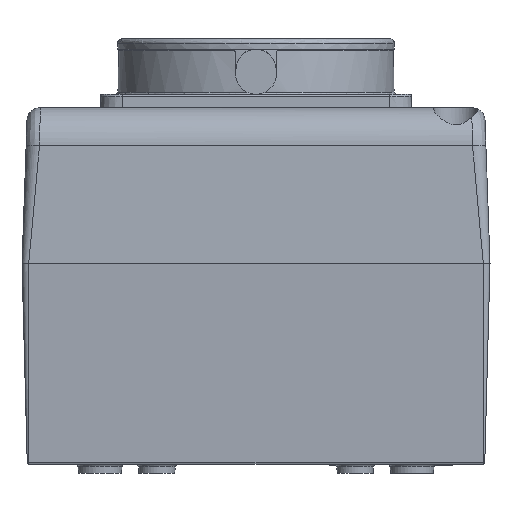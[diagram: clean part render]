
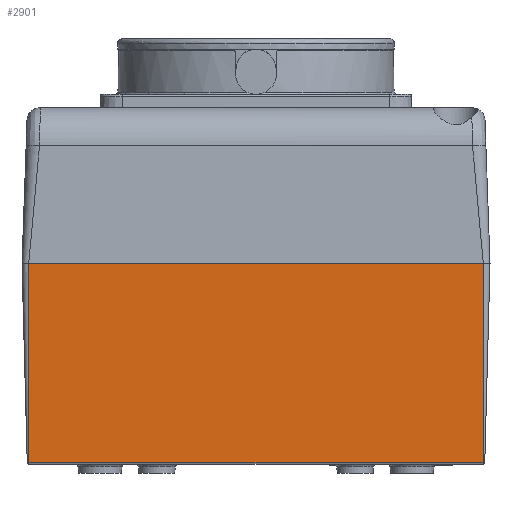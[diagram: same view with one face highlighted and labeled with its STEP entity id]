
A CAD part, front view. The second image highlights one B-rep face of the part: STEP entity #2901.
In plain terms, the highlighted planar face has unit normal (0, -1, -0.026).
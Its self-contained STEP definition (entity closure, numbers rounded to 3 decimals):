
#2663=PLANE('',#8642);
#2901=ADVANCED_FACE('',(#3283),#2663,.T.);
#3283=FACE_OUTER_BOUND('',#3580,.T.);
#3580=EDGE_LOOP('',(#4909,#4910,#4911,#4912));
#4909=ORIENTED_EDGE('',*,*,#6901,.T.);
#4910=ORIENTED_EDGE('',*,*,#6902,.T.);
#4911=ORIENTED_EDGE('',*,*,#6903,.F.);
#4912=ORIENTED_EDGE('',*,*,#6904,.T.);
#5926=VERTEX_POINT('',#13768);
#5927=VERTEX_POINT('',#13769);
#5928=VERTEX_POINT('',#13771);
#5929=VERTEX_POINT('',#13773);
#6901=EDGE_CURVE('',#5926,#5927,#7599,.T.);
#6902=EDGE_CURVE('',#5927,#5928,#7600,.T.);
#6903=EDGE_CURVE('',#5929,#5928,#7601,.T.);
#6904=EDGE_CURVE('',#5929,#5926,#7602,.T.);
#7599=LINE('',#13767,#8105);
#7600=LINE('',#13770,#8106);
#7601=LINE('',#13772,#8107);
#7602=LINE('',#13774,#8108);
#8105=VECTOR('',#10088,1.);
#8106=VECTOR('',#10089,1.);
#8107=VECTOR('',#10090,1.);
#8108=VECTOR('',#10091,1.);
#8642=AXIS2_PLACEMENT_3D('',#13775,#10092,#10093);
#10088=DIRECTION('',(0.,0.026,-1.));
#10089=DIRECTION('',(1.,0.,0.));
#10090=DIRECTION('',(0.,0.026,-1.));
#10091=DIRECTION('',(-1.,0.,0.));
#10092=DIRECTION('',(0.,-1.,-0.026));
#10093=DIRECTION('',(1.,0.,0.));
#13767=CARTESIAN_POINT('',(-51.,-75.,-164.));
#13768=CARTESIAN_POINT('',(-51.,-75.,-164.));
#13769=CARTESIAN_POINT('',(-51.,-73.829,-208.708));
#13770=CARTESIAN_POINT('',(51.009,-73.829,-208.708));
#13771=CARTESIAN_POINT('',(51.,-73.829,-208.708));
#13772=CARTESIAN_POINT('',(51.,-75.,-164.));
#13773=CARTESIAN_POINT('',(51.,-75.,-164.));
#13774=CARTESIAN_POINT('',(-51.,-75.,-164.));
#13775=CARTESIAN_POINT('',(51.009,-75.,-163.991));
